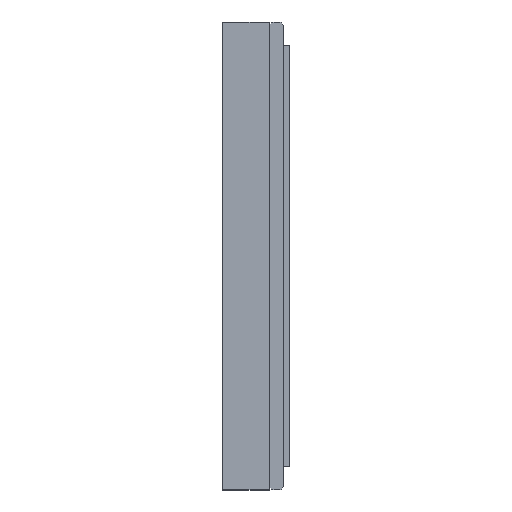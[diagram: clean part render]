
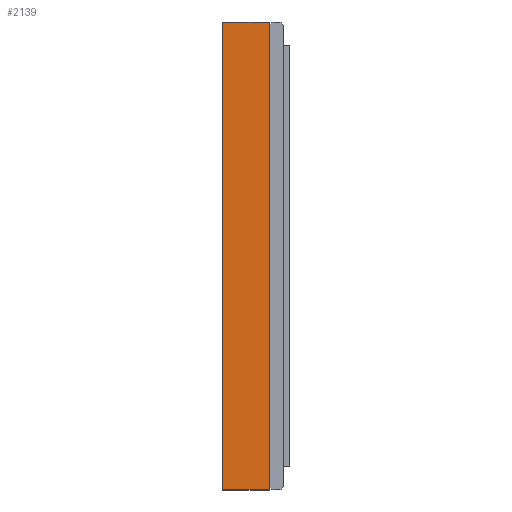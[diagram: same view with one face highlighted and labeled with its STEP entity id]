
A CAD part, left-side view. The second image highlights one B-rep face of the part: STEP entity #2139.
In plain terms, the highlighted planar face has unit normal (-1, 0, 0).
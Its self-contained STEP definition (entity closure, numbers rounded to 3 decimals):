
#317 = CARTESIAN_POINT ( 'NONE',  ( -435.273, 8.318, -34.705 ) ) ;
#2059 = VECTOR ( 'NONE', #37270, 1000. ) ;
#2139 = ADVANCED_FACE ( 'NONE', ( #23850 ), #51166, .T. ) ;
#2275 = CARTESIAN_POINT ( 'NONE',  ( -435.273, 8.318, -44.705 ) ) ;
#2484 = CARTESIAN_POINT ( 'NONE',  ( -435.273, 9.318, -34.705 ) ) ;
#5847 = LINE ( 'NONE', #2275, #2059 ) ;
#6644 = CARTESIAN_POINT ( 'NONE',  ( -435.273, 8.018, -34.705 ) ) ;
#6967 = ORIENTED_EDGE ( 'NONE', *, *, #51527, .F. ) ;
#8950 = CARTESIAN_POINT ( 'NONE',  ( -435.273, 8.318, -44.705 ) ) ;
#10666 = DIRECTION ( 'NONE',  ( 0., 0., -1. ) ) ;
#12478 = VECTOR ( 'NONE', #20565, 1000. ) ;
#14186 = AXIS2_PLACEMENT_3D ( 'NONE', #6644, #19988, #52858 ) ;
#18458 = VERTEX_POINT ( 'NONE', #51761 ) ;
#19988 = DIRECTION ( 'NONE',  ( -1., 0., 0. ) ) ;
#20565 = DIRECTION ( 'NONE',  ( 0., 0., 1. ) ) ;
#21718 = EDGE_CURVE ( 'NONE', #48118, #44686, #27614, .T. ) ;
#22565 = EDGE_CURVE ( 'NONE', #30814, #48118, #46583, .T. ) ;
#23850 = FACE_OUTER_BOUND ( 'NONE', #38699, .T. ) ;
#24142 = LINE ( 'NONE', #2484, #12478 ) ;
#27614 = LINE ( 'NONE', #47151, #44665 ) ;
#27884 = CARTESIAN_POINT ( 'NONE',  ( -435.273, 8.318, -34.705 ) ) ;
#30629 = ORIENTED_EDGE ( 'NONE', *, *, #39841, .F. ) ;
#30814 = VERTEX_POINT ( 'NONE', #40600 ) ;
#37106 = VECTOR ( 'NONE', #37376, 1000. ) ;
#37270 = DIRECTION ( 'NONE',  ( 0., 1., 0. ) ) ;
#37376 = DIRECTION ( 'NONE',  ( 0., -1., 0. ) ) ;
#38699 = EDGE_LOOP ( 'NONE', ( #58315, #30629, #6967, #50960 ) ) ;
#39841 = EDGE_CURVE ( 'NONE', #18458, #30814, #24142, .T. ) ;
#40600 = CARTESIAN_POINT ( 'NONE',  ( -435.273, 9.318, -34.705 ) ) ;
#44665 = VECTOR ( 'NONE', #10666, 1000. ) ;
#44686 = VERTEX_POINT ( 'NONE', #8950 ) ;
#46583 = LINE ( 'NONE', #317, #37106 ) ;
#47151 = CARTESIAN_POINT ( 'NONE',  ( -435.273, 8.318, -34.705 ) ) ;
#48118 = VERTEX_POINT ( 'NONE', #27884 ) ;
#50960 = ORIENTED_EDGE ( 'NONE', *, *, #21718, .F. ) ;
#51166 = PLANE ( 'NONE',  #14186 ) ;
#51527 = EDGE_CURVE ( 'NONE', #44686, #18458, #5847, .T. ) ;
#51761 = CARTESIAN_POINT ( 'NONE',  ( -435.273, 9.318, -44.705 ) ) ;
#52858 = DIRECTION ( 'NONE',  ( 0., 0., 1. ) ) ;
#58315 = ORIENTED_EDGE ( 'NONE', *, *, #22565, .F. ) ;
